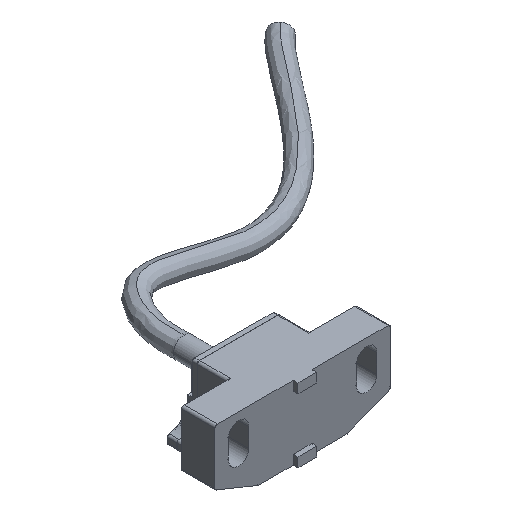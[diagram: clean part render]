
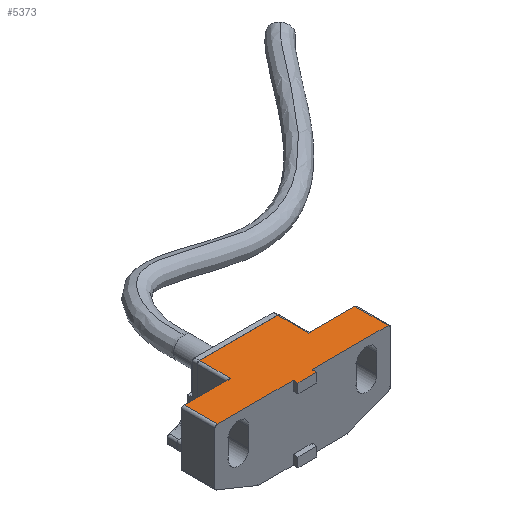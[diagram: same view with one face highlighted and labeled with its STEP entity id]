
A CAD part, isometric view. The second image highlights one B-rep face of the part: STEP entity #5373.
In plain terms, the highlighted planar face has unit normal (0, 0, 1).
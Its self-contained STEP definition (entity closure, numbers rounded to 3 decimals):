
#53 = CARTESIAN_POINT ( 'NONE',  ( -8.25, 7., 15.5 ) ) ;
#63 = CARTESIAN_POINT ( 'NONE',  ( -2., -1., 15.5 ) ) ;
#112 = CARTESIAN_POINT ( 'NONE',  ( 8.75, 7., 15.5 ) ) ;
#213 = VERTEX_POINT ( 'NONE', #1525 ) ;
#614 = EDGE_CURVE ( 'NONE', #2008, #4326, #4279, .T. ) ;
#623 = CARTESIAN_POINT ( 'NONE',  ( 8.25, 7., 15.5 ) ) ;
#681 = VECTOR ( 'NONE', #3237, 1000. ) ;
#695 = VECTOR ( 'NONE', #3602, 1000. ) ;
#726 = DIRECTION ( 'NONE',  ( 1., 0., 0. ) ) ;
#786 = VERTEX_POINT ( 'NONE', #623 ) ;
#921 = ORIENTED_EDGE ( 'NONE', *, *, #6623, .T. ) ;
#1060 = VECTOR ( 'NONE', #2540, 1000. ) ;
#1231 = VERTEX_POINT ( 'NONE', #53 ) ;
#1282 = EDGE_LOOP ( 'NONE', ( #2984, #3516, #6228, #6659, #6562, #6210, #1296, #921, #3091, #3836, #6618, #3358 ) ) ;
#1296 = ORIENTED_EDGE ( 'NONE', *, *, #6437, .T. ) ;
#1367 = LINE ( 'NONE', #5738, #1388 ) ;
#1388 = VECTOR ( 'NONE', #3035, 1000. ) ;
#1395 = DIRECTION ( 'NONE',  ( 0., 1., 0. ) ) ;
#1432 = EDGE_CURVE ( 'NONE', #213, #2119, #4130, .T. ) ;
#1489 = PLANE ( 'NONE',  #4605 ) ;
#1514 = VECTOR ( 'NONE', #2309, 1000. ) ;
#1525 = CARTESIAN_POINT ( 'NONE',  ( -18., 0., 15.5 ) ) ;
#1639 = LINE ( 'NONE', #3828, #681 ) ;
#1675 = CARTESIAN_POINT ( 'NONE',  ( 18., 0., 15.5 ) ) ;
#1709 = CARTESIAN_POINT ( 'NONE',  ( -2., 0., 15.5 ) ) ;
#1816 = EDGE_CURVE ( 'NONE', #1231, #2597, #3081, .T. ) ;
#1964 = CARTESIAN_POINT ( 'NONE',  ( 0., 0., 15.5 ) ) ;
#2008 = VERTEX_POINT ( 'NONE', #1675 ) ;
#2018 = VERTEX_POINT ( 'NONE', #5436 ) ;
#2027 = CARTESIAN_POINT ( 'NONE',  ( -18., 0., 15.5 ) ) ;
#2080 = EDGE_CURVE ( 'NONE', #6457, #2008, #1639, .T. ) ;
#2119 = VERTEX_POINT ( 'NONE', #1709 ) ;
#2296 = VECTOR ( 'NONE', #2614, 1000. ) ;
#2309 = DIRECTION ( 'NONE',  ( -1., 0., 0. ) ) ;
#2331 = CARTESIAN_POINT ( 'NONE',  ( -8.75, 13.5, 15.5 ) ) ;
#2351 = CARTESIAN_POINT ( 'NONE',  ( 8.25, 13.5, 15.5 ) ) ;
#2369 = CARTESIAN_POINT ( 'NONE',  ( 2., -1., 15.5 ) ) ;
#2374 = CARTESIAN_POINT ( 'NONE',  ( -2., -1., 15.5 ) ) ;
#2540 = DIRECTION ( 'NONE',  ( 0., -1., 0. ) ) ;
#2597 = VERTEX_POINT ( 'NONE', #4893 ) ;
#2614 = DIRECTION ( 'NONE',  ( -1., 0., 0. ) ) ;
#2984 = ORIENTED_EDGE ( 'NONE', *, *, #5996, .T. ) ;
#3035 = DIRECTION ( 'NONE',  ( 0., -1., 0. ) ) ;
#3071 = DIRECTION ( 'NONE',  ( 0., 1., 0. ) ) ;
#3081 = LINE ( 'NONE', #5254, #2296 ) ;
#3091 = ORIENTED_EDGE ( 'NONE', *, *, #2080, .T. ) ;
#3173 = VECTOR ( 'NONE', #726, 1000. ) ;
#3237 = DIRECTION ( 'NONE',  ( 1., 0., 0. ) ) ;
#3257 = EDGE_CURVE ( 'NONE', #2597, #213, #5214, .T. ) ;
#3358 = ORIENTED_EDGE ( 'NONE', *, *, #4528, .T. ) ;
#3516 = ORIENTED_EDGE ( 'NONE', *, *, #6717, .T. ) ;
#3602 = DIRECTION ( 'NONE',  ( 1., 0., 0. ) ) ;
#3716 = VERTEX_POINT ( 'NONE', #63 ) ;
#3828 = CARTESIAN_POINT ( 'NONE',  ( 18.5, 0., 15.5 ) ) ;
#3836 = ORIENTED_EDGE ( 'NONE', *, *, #614, .T. ) ;
#3840 = DIRECTION ( 'NONE',  ( 0., -1., 0. ) ) ;
#4002 = LINE ( 'NONE', #2331, #6462 ) ;
#4130 = LINE ( 'NONE', #6781, #695 ) ;
#4137 = LINE ( 'NONE', #4171, #6948 ) ;
#4171 = CARTESIAN_POINT ( 'NONE',  ( 8.25, 13.5, 15.5 ) ) ;
#4279 = LINE ( 'NONE', #5777, #5948 ) ;
#4326 = VERTEX_POINT ( 'NONE', #4706 ) ;
#4359 = EDGE_CURVE ( 'NONE', #2119, #3716, #1367, .T. ) ;
#4528 = EDGE_CURVE ( 'NONE', #786, #4957, #4137, .T. ) ;
#4568 = DIRECTION ( 'NONE',  ( -1., 0., 0. ) ) ;
#4605 = AXIS2_PLACEMENT_3D ( 'NONE', #1964, #5253, #6905 ) ;
#4642 = VECTOR ( 'NONE', #1395, 1000. ) ;
#4706 = CARTESIAN_POINT ( 'NONE',  ( 18., 7., 15.5 ) ) ;
#4893 = CARTESIAN_POINT ( 'NONE',  ( -18., 7., 15.5 ) ) ;
#4957 = VERTEX_POINT ( 'NONE', #2351 ) ;
#5019 = LINE ( 'NONE', #112, #1514 ) ;
#5214 = LINE ( 'NONE', #2027, #1060 ) ;
#5253 = DIRECTION ( 'NONE',  ( 0., 0., -1. ) ) ;
#5254 = CARTESIAN_POINT ( 'NONE',  ( -18.5, 7., 15.5 ) ) ;
#5358 = EDGE_CURVE ( 'NONE', #4326, #786, #5019, .T. ) ;
#5373 = ADVANCED_FACE ( 'NONE', ( #6401 ), #1489, .F. ) ;
#5378 = LINE ( 'NONE', #6496, #6127 ) ;
#5436 = CARTESIAN_POINT ( 'NONE',  ( -8.25, 13.5, 15.5 ) ) ;
#5693 = LINE ( 'NONE', #2374, #3173 ) ;
#5738 = CARTESIAN_POINT ( 'NONE',  ( -2., 0., 15.5 ) ) ;
#5777 = CARTESIAN_POINT ( 'NONE',  ( 18., 7., 15.5 ) ) ;
#5857 = DIRECTION ( 'NONE',  ( 0., 1., 0. ) ) ;
#5919 = CARTESIAN_POINT ( 'NONE',  ( 2., -1., 15.5 ) ) ;
#5948 = VECTOR ( 'NONE', #3071, 1000. ) ;
#5996 = EDGE_CURVE ( 'NONE', #4957, #2018, #4002, .T. ) ;
#6127 = VECTOR ( 'NONE', #3840, 1000. ) ;
#6210 = ORIENTED_EDGE ( 'NONE', *, *, #4359, .T. ) ;
#6228 = ORIENTED_EDGE ( 'NONE', *, *, #1816, .T. ) ;
#6401 = FACE_OUTER_BOUND ( 'NONE', #1282, .T. ) ;
#6437 = EDGE_CURVE ( 'NONE', #3716, #6846, #5693, .T. ) ;
#6457 = VERTEX_POINT ( 'NONE', #6703 ) ;
#6462 = VECTOR ( 'NONE', #4568, 1000. ) ;
#6464 = LINE ( 'NONE', #5919, #4642 ) ;
#6496 = CARTESIAN_POINT ( 'NONE',  ( -8.25, 7., 15.5 ) ) ;
#6562 = ORIENTED_EDGE ( 'NONE', *, *, #1432, .T. ) ;
#6618 = ORIENTED_EDGE ( 'NONE', *, *, #5358, .T. ) ;
#6623 = EDGE_CURVE ( 'NONE', #6846, #6457, #6464, .T. ) ;
#6659 = ORIENTED_EDGE ( 'NONE', *, *, #3257, .T. ) ;
#6703 = CARTESIAN_POINT ( 'NONE',  ( 2., 0., 15.5 ) ) ;
#6717 = EDGE_CURVE ( 'NONE', #2018, #1231, #5378, .T. ) ;
#6781 = CARTESIAN_POINT ( 'NONE',  ( -2., 0., 15.5 ) ) ;
#6846 = VERTEX_POINT ( 'NONE', #2369 ) ;
#6905 = DIRECTION ( 'NONE',  ( -1., 0., 0. ) ) ;
#6948 = VECTOR ( 'NONE', #5857, 1000. ) ;
